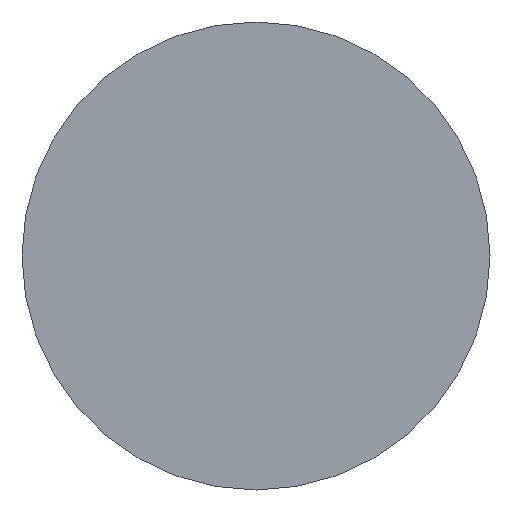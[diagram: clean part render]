
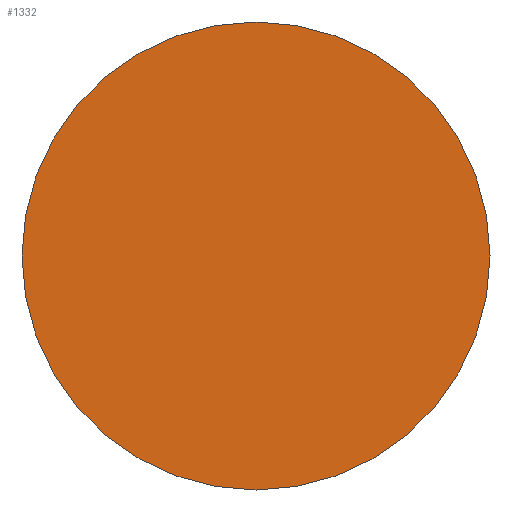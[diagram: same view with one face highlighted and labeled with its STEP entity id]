
A CAD part, left-side view. The second image highlights one B-rep face of the part: STEP entity #1332.
In plain terms, the highlighted planar face has unit normal (-1, 0, 0).
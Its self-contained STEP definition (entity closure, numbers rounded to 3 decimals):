
#82 = ORIENTED_EDGE ( 'NONE', *, *, #2164, .F. ) ;
#306 = DIRECTION ( 'NONE',  ( 1., 0., 0. ) ) ;
#555 = VERTEX_POINT ( 'NONE', #4263 ) ;
#643 = CIRCLE ( 'NONE', #3207, 15.75 ) ;
#1332 = ADVANCED_FACE ( 'NONE', ( #3708 ), #6389, .F. ) ;
#1994 = EDGE_CURVE ( 'NONE', #555, #4074, #5949, .T. ) ;
#2076 = AXIS2_PLACEMENT_3D ( 'NONE', #8557, #7710, #4301 ) ;
#2164 = EDGE_CURVE ( 'NONE', #4074, #555, #643, .T. ) ;
#2654 = EDGE_LOOP ( 'NONE', ( #6877, #82 ) ) ;
#3170 = CARTESIAN_POINT ( 'NONE',  ( 0., 0., 0. ) ) ;
#3207 = AXIS2_PLACEMENT_3D ( 'NONE', #3170, #7928, #3864 ) ;
#3708 = FACE_OUTER_BOUND ( 'NONE', #2654, .T. ) ;
#3765 = CARTESIAN_POINT ( 'NONE',  ( 0., 0., -15.75 ) ) ;
#3864 = DIRECTION ( 'NONE',  ( 0., 0., 1. ) ) ;
#4074 = VERTEX_POINT ( 'NONE', #3765 ) ;
#4263 = CARTESIAN_POINT ( 'NONE',  ( 0., 0., 15.75 ) ) ;
#4301 = DIRECTION ( 'NONE',  ( 0., 0., 1. ) ) ;
#5802 = AXIS2_PLACEMENT_3D ( 'NONE', #8653, #306, #5976 ) ;
#5949 = CIRCLE ( 'NONE', #2076, 15.75 ) ;
#5976 = DIRECTION ( 'NONE',  ( 0., 0., 1. ) ) ;
#6389 = PLANE ( 'NONE',  #5802 ) ;
#6877 = ORIENTED_EDGE ( 'NONE', *, *, #1994, .F. ) ;
#7710 = DIRECTION ( 'NONE',  ( 1., 0., 0. ) ) ;
#7928 = DIRECTION ( 'NONE',  ( 1., 0., 0. ) ) ;
#8557 = CARTESIAN_POINT ( 'NONE',  ( 0., 0., 0. ) ) ;
#8653 = CARTESIAN_POINT ( 'NONE',  ( 0., -13.5, 0. ) ) ;
